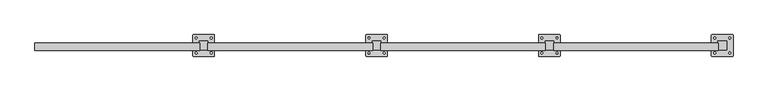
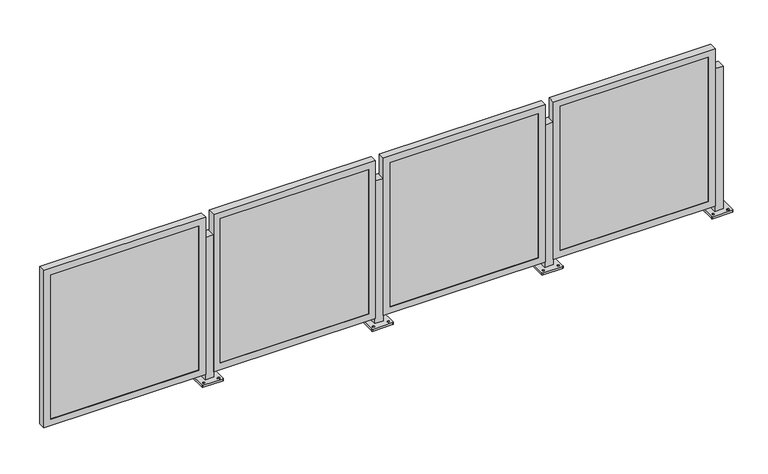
"""IFC4 building model written with IfcOpenShell, lengths in millimetres: railing geometry, Railing - Amico Architectural - Perforated Railing - Crescent."""

from ifc_helpers import new_model, si_unit, frame, origin, place, context, project, spatial, polyline, circle_curve, outline, extrude, faceted_brep, source, transform, mapped, element, save
from ifc_brep_helpers import plane_surface, cylinder_surface, revolved_surface, advanced_brep


def railing_0fd0b3dd(model_context):
    return source(origin(), model_context, "Body", "SolidModel", [
        advanced_brep(
        [(-18839.9348337, -3793.9525624, 914.4), (-18839.9348337, -3844.7525624, 914.4), (-18789.1348337, -3844.7525624, 914.4), (-18789.1348337, -3793.9525624, 914.4), (-18878.0348339, -3879.6775213, 0.0), (-18878.0348339, -3759.0276034, 0.0), (-18874.8598057, -3755.8525752, 0.0), (-18754.2098617, -3755.8525752, 0.0), (-18751.0348335, -3759.0276034, 0.0), (-18751.0348335, -3879.6775213, 0.0), (-18754.2098617, -3882.8525495, 0.0), (-18874.8598057, -3882.8525495, 0.0), (-18858.9848212, -3869.358817, 0.0), (-18858.9848212, -3858.2463046, 0.0), (-18858.9848321, -3780.4588126, 0.0), (-18858.9848321, -3769.346331, 0.0), (-18770.0848203, -3869.3588155, 0.0), (-18770.0848203, -3858.2463048, 0.0), (-18770.0848312, -3780.4588111, 0.0), (-18770.0848312, -3769.3463313, 0.0), (-18839.9348337, -3793.9525624, 12.7), (-18839.9348337, -3844.7525624, 12.7), (-18789.1348337, -3844.7525624, 12.7), (-18789.1348337, -3793.9525624, 12.7), (-18878.0348339, -3879.6775213, 12.7), (-18874.8598057, -3882.8525495, 12.7), (-18754.2098617, -3882.8525495, 12.7), (-18751.0348335, -3879.6775213, 12.7), (-18751.0348335, -3759.0276034, 12.7), (-18754.2098617, -3755.8525752, 12.7), (-18874.8598057, -3755.8525752, 12.7), (-18878.0348339, -3759.0276034, 12.7), (-18858.9848212, -3869.358817, 12.7), (-18858.9848212, -3858.2463046, 12.7), (-18858.9848321, -3780.4588126, 12.7), (-18858.9848321, -3769.346331, 12.7), (-18770.0848203, -3869.3588155, 12.7), (-18770.0848203, -3858.2463048, 12.7), (-18770.0848312, -3780.4588111, 12.7), (-18770.0848312, -3769.3463313, 12.7)],
        [
            (0, 1),
            (1, 2),
            (2, 3),
            (3, 0),
            (4, 5),
            (5, 6, circle_curve(frame((-18874.8598057, -3759.0276034, 0.0), z_axis=(0.0, 0.0, -1.0), x_axis=(0.0, 1.0, 0.0)), 3.1750282)),
            (6, 7),
            (7, 8, circle_curve(frame((-18754.2098617, -3759.0276034, 0.0), z_axis=(0.0, 0.0, -1.0), x_axis=(0.0, 1.0, 0.0)), 3.1750282)),
            (8, 9),
            (9, 10, circle_curve(frame((-18754.2098617, -3879.6775213, 0.0), z_axis=(0.0, 0.0, -1.0), x_axis=(0.0, 1.0, 0.0)), 3.1750282)),
            (10, 11),
            (11, 4, circle_curve(frame((-18874.8598057, -3879.6775213, 0.0), z_axis=(0.0, 0.0, -1.0), x_axis=(0.0, 1.0, 0.0)), 3.1750282)),
            (12, 13, circle_curve(frame((-18858.9848212, -3863.8025608, 0.0), z_axis=(0.0, 0.0, 1.0), x_axis=(0.0, 1.0, 0.0)), 5.5562562)),
            (13, 12, circle_curve(frame((-18858.9848212, -3863.8025608, 0.0), z_axis=(0.0, 0.0, 1.0), x_axis=(0.0, 1.0, 0.0)), 5.5562562)),
            (14, 15, circle_curve(frame((-18858.9848321, -3774.9025718, 0.0), z_axis=(0.0, 0.0, 1.0), x_axis=(0.0, 1.0, 0.0)), 5.5562408)),
            (15, 14, circle_curve(frame((-18858.9848321, -3774.9025718, 0.0), z_axis=(0.0, 0.0, 1.0), x_axis=(0.0, 1.0, 0.0)), 5.5562408)),
            (16, 17, circle_curve(frame((-18770.0848203, -3863.8025601, 0.0), z_axis=(0.0, 0.0, 1.0), x_axis=(0.0, 1.0, 0.0)), 5.5562553)),
            (17, 16, circle_curve(frame((-18770.0848203, -3863.8025601, 0.0), z_axis=(0.0, 0.0, 1.0), x_axis=(0.0, 1.0, 0.0)), 5.5562553)),
            (18, 19, circle_curve(frame((-18770.0848312, -3774.9025712, 0.0), z_axis=(0.0, 0.0, 1.0), x_axis=(0.0, 1.0, 0.0)), 5.5562399)),
            (19, 18, circle_curve(frame((-18770.0848312, -3774.9025712, 0.0), z_axis=(0.0, 0.0, 1.0), x_axis=(0.0, 1.0, 0.0)), 5.5562399)),
            (0, 20),
            (20, 21),
            (21, 1),
            (21, 22),
            (22, 2),
            (22, 23),
            (23, 3),
            (23, 20),
            (24, 25, circle_curve(frame((-18874.8598057, -3879.6775213, 12.7), z_axis=(0.0, 0.0, 1.0), x_axis=(0.0, 1.0, 0.0)), 3.1750282)),
            (25, 26),
            (26, 27, circle_curve(frame((-18754.2098617, -3879.6775213, 12.7), z_axis=(0.0, 0.0, 1.0), x_axis=(0.0, 1.0, 0.0)), 3.1750282)),
            (27, 28),
            (28, 29, circle_curve(frame((-18754.2098617, -3759.0276034, 12.7), z_axis=(0.0, 0.0, 1.0), x_axis=(0.0, 1.0, 0.0)), 3.1750282)),
            (29, 30),
            (30, 31, circle_curve(frame((-18874.8598057, -3759.0276034, 12.7), z_axis=(0.0, 0.0, 1.0), x_axis=(0.0, 1.0, 0.0)), 3.1750282)),
            (31, 24),
            (32, 33, circle_curve(frame((-18858.9848212, -3863.8025608, 12.7), z_axis=(0.0, 0.0, -1.0), x_axis=(0.0, 1.0, 0.0)), 5.5562562)),
            (33, 32, circle_curve(frame((-18858.9848212, -3863.8025608, 12.7), z_axis=(0.0, 0.0, -1.0), x_axis=(0.0, 1.0, 0.0)), 5.5562562)),
            (34, 35, circle_curve(frame((-18858.9848321, -3774.9025718, 12.7), z_axis=(0.0, 0.0, -1.0), x_axis=(0.0, 1.0, 0.0)), 5.5562408)),
            (35, 34, circle_curve(frame((-18858.9848321, -3774.9025718, 12.7), z_axis=(0.0, 0.0, -1.0), x_axis=(0.0, 1.0, 0.0)), 5.5562408)),
            (36, 37, circle_curve(frame((-18770.0848203, -3863.8025601, 12.7), z_axis=(0.0, 0.0, -1.0), x_axis=(0.0, 1.0, 0.0)), 5.5562553)),
            (37, 36, circle_curve(frame((-18770.0848203, -3863.8025601, 12.7), z_axis=(0.0, 0.0, -1.0), x_axis=(0.0, 1.0, 0.0)), 5.5562553)),
            (38, 39, circle_curve(frame((-18770.0848312, -3774.9025712, 12.7), z_axis=(0.0, 0.0, -1.0), x_axis=(0.0, 1.0, 0.0)), 5.5562399)),
            (39, 38, circle_curve(frame((-18770.0848312, -3774.9025712, 12.7), z_axis=(0.0, 0.0, -1.0), x_axis=(0.0, 1.0, 0.0)), 5.5562399)),
            (24, 4),
            (11, 25),
            (10, 26),
            (9, 27),
            (8, 28),
            (7, 29),
            (6, 30),
            (5, 31),
            (32, 12),
            (13, 33),
            (34, 14),
            (15, 35),
            (36, 16),
            (17, 37),
            (38, 18),
            (19, 39),
        ],
        [
            plane_surface(frame((-18839.9348337, -3844.7525624, 914.4), z_axis=(0.0, 0.0, 1.0), x_axis=(0.0, -1.0, 0.0))),
            plane_surface(frame((-18839.9348337, -3844.7525624, 0.0), z_axis=(0.0, 0.0, -1.0), x_axis=(0.0, 1.0, 0.0))),
            plane_surface(frame((-18839.9348337, -3793.9525624, 914.4), z_axis=(-1.0, 0.0, 0.0), x_axis=(0.0, 0.0, -1.0))),
            plane_surface(frame((-18839.9348337, -3844.7525624, 914.4), z_axis=(0.0, -1.0, 0.0), x_axis=(0.0, 0.0, -1.0))),
            plane_surface(frame((-18789.1348337, -3844.7525624, 914.4), z_axis=(1.0, 0.0, 0.0), x_axis=(0.0, 0.0, -1.0))),
            plane_surface(frame((-18789.1348337, -3793.9525624, 914.4), z_axis=(0.0, 1.0, 0.0), x_axis=(0.0, 0.0, -1.0))),
            plane_surface(frame((-18874.8598057, -3876.5024932, 12.7), z_axis=(0.0, 0.0, 1.0), x_axis=(-1.0, 0.0, 0.0))),
            cylinder_surface(frame((-18874.8598057, -3879.6775213, 0.0), z_axis=(0.0, 0.0, 1.0), x_axis=(0.0, 1.0, 0.0)), 3.1750282),
            plane_surface(frame((-18874.8598057, -3882.8525495, 12.7), z_axis=(1.1945386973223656e-12, -1.0, 0.0), x_axis=(0.0, 0.0, -1.0))),
            cylinder_surface(frame((-18754.2098617, -3879.6775213, 0.0), z_axis=(0.0, 0.0, 1.0), x_axis=(0.0, 1.0, 0.0)), 3.1750282),
            plane_surface(frame((-18751.0348335, -3879.6775213, 12.7), z_axis=(1.0, 0.0, 0.0), x_axis=(0.0, 0.0, -1.0))),
            cylinder_surface(frame((-18754.2098617, -3759.0276034, 0.0), z_axis=(0.0, 0.0, 1.0), x_axis=(0.0, 1.0, 0.0)), 3.1750282),
            plane_surface(frame((-18754.2098617, -3755.8525752, 12.7), z_axis=(-1.1946088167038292e-12, 1.0, 0.0), x_axis=(0.0, 0.0, -1.0))),
            cylinder_surface(frame((-18874.8598057, -3759.0276034, 0.0), z_axis=(0.0, 0.0, 1.0), x_axis=(0.0, 1.0, 0.0)), 3.1750282),
            plane_surface(frame((-18878.0348339, -3759.0276034, 12.7), z_axis=(-1.0, 0.0, 0.0), x_axis=(0.0, 0.0, -1.0))),
            revolved_surface(polyline([(-18858.9848212, -3858.2463046, 0.0), (-18858.9848212, -3858.2463046, 12.7)]), (-18858.9848212, -3863.8025608, 0.0), (0.0, 0.0, -1.0)),
            revolved_surface(polyline([(-18858.9848321, -3769.3463309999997, 0.0), (-18858.9848321, -3769.3463309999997, 12.7)]), (-18858.9848321, -3774.9025718, 0.0), (0.0, 0.0, -1.0)),
            revolved_surface(polyline([(-18770.0848203, -3858.2463048, 0.0), (-18770.0848203, -3858.2463048, 12.7)]), (-18770.0848203, -3863.8025601, 0.0), (0.0, 0.0, -1.0)),
            revolved_surface(polyline([(-18770.0848312, -3769.3463312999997, 0.0), (-18770.0848312, -3769.3463312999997, 12.7)]), (-18770.0848312, -3774.9025712, 0.0), (0.0, 0.0, -1.0)),
        ],
        [
            (0, [[1, 2, 3, 4]]),
            (1, [[5, 6, 7, 8, 9, 10, 11, 12], [13, 14], [15, 16], [17, 18], [19, 20]]),
            (2, [[-1, 21, 22, 23]]),
            (3, [[-2, -23, 24, 25]]),
            (4, [[-3, -25, 26, 27]]),
            (5, [[-4, -27, 28, -21]]),
            (6, [[29, 30, 31, 32, 33, 34, 35, 36], [-22, -28, -26, -24], [37, 38], [39, 40], [41, 42], [43, 44]]),
            (7, [[-29, 45, -12, 46]]),
            (8, [[-30, -46, -11, 47]]),
            (9, [[-31, -47, -10, 48]]),
            (10, [[-32, -48, -9, 49]]),
            (11, [[-33, -49, -8, 50]]),
            (12, [[-34, -50, -7, 51]]),
            (13, [[-35, -51, -6, 52]]),
            (14, [[-36, -52, -5, -45]]),
            (15, [[-37, 53, -14, 54]]),
            (15, [[-38, -54, -13, -53]]),
            (16, [[-39, 55, -16, 56]]),
            (16, [[-40, -56, -15, -55]]),
            (17, [[-41, 57, -18, 58]]),
            (17, [[-42, -58, -17, -57]]),
            (18, [[-43, 59, -20, 60]]),
            (18, [[-44, -60, -19, -59]]),
        ],
    ),
        faceted_brep([(-19806.3392871, -3847.4957624, 47.625), (-18837.9642871, -3847.4957624, 47.625), (-18837.9642871, -3847.4957624, 1044.575), (-19806.3392871, -3847.4957624, 1044.575), (-19765.0642871, -3847.4957624, 1003.3), (-18879.2392871, -3847.4957624, 1003.3), (-18879.2392871, -3847.4957624, 88.9), (-19765.0642871, -3847.4957624, 88.9), (-19765.0642871, -3844.7525624, 1003.3), (-19765.0642871, -3844.7525624, 88.9), (-19806.3392871, -3803.6224658, 1044.575), (-19806.3392871, -3803.6224658, 47.625), (-19803.1642871, -3803.6224658, 1041.4), (-19803.1642871, -3844.7525624, 1041.4), (-19803.1642871, -3844.7525624, 50.8), (-19803.1642871, -3803.6224658, 50.8), (-18879.2392871, -3844.7525624, 88.9), (-18837.9642871, -3803.6224658, 47.625), (-18841.1392871, -3844.7525624, 50.8), (-18841.1392871, -3803.6224658, 50.8), (-18879.2392871, -3844.7525624, 1003.3), (-18837.9642871, -3803.6224658, 1044.575), (-18841.1392871, -3844.7525624, 1041.4), (-18841.1392871, -3803.6224658, 1041.4)], [[[0, 1, 2, 3], [4, 5, 6, 7]], [[8, 4, 7, 9]], [[3, 10, 11, 0]], [[12, 13, 14, 15]], [[9, 7, 6, 16]], [[0, 11, 17, 1]], [[15, 14, 18, 19]], [[16, 6, 5, 20]], [[1, 17, 21, 2]], [[19, 18, 22, 23]], [[20, 5, 4, 8]], [[10, 21, 17, 11], [15, 19, 23, 12]], [[2, 21, 10, 3]], [[13, 22, 18, 14], [9, 16, 20, 8]], [[23, 22, 13, 12]]]),
        extrude(outline(polyline([(-19803.1642871, -3835.2275624), (-18841.1392871, -3835.2275624), (-18841.1392871, -3844.7525624), (-19803.1642871, -3844.7525624), (-19803.1642871, -3835.2275624)])), frame((0.0, 0.0, 50.8), z_axis=(0.0, 0.0, 1.0), x_axis=(1.0, 0.0, 0.0)), (0.0, 0.0, 1.0), 990.6),
        advanced_brep(
        [(-19855.9348337, -3793.9525624, 914.4), (-19855.9348337, -3844.7525624, 914.4), (-19805.1348337, -3844.7525624, 914.4), (-19805.1348337, -3793.9525624, 914.4), (-19894.0348339, -3879.6775213, 0.0), (-19894.0348339, -3759.0276034, 0.0), (-19890.8598057, -3755.8525752, 0.0), (-19770.2098617, -3755.8525752, 0.0), (-19767.0348335, -3759.0276034, 0.0), (-19767.0348335, -3879.6775213, 0.0), (-19770.2098617, -3882.8525495, 0.0), (-19890.8598057, -3882.8525495, 0.0), (-19874.9848212, -3869.358817, 0.0), (-19874.9848212, -3858.2463046, 0.0), (-19874.9848321, -3780.4588126, 0.0), (-19874.9848321, -3769.346331, 0.0), (-19786.0848203, -3869.3588155, 0.0), (-19786.0848203, -3858.2463048, 0.0), (-19786.0848312, -3780.4588111, 0.0), (-19786.0848312, -3769.3463313, 0.0), (-19855.9348337, -3793.9525624, 12.7), (-19855.9348337, -3844.7525624, 12.7), (-19805.1348337, -3844.7525624, 12.7), (-19805.1348337, -3793.9525624, 12.7), (-19894.0348339, -3879.6775213, 12.7), (-19890.8598057, -3882.8525495, 12.7), (-19770.2098617, -3882.8525495, 12.7), (-19767.0348335, -3879.6775213, 12.7), (-19767.0348335, -3759.0276034, 12.7), (-19770.2098617, -3755.8525752, 12.7), (-19890.8598057, -3755.8525752, 12.7), (-19894.0348339, -3759.0276034, 12.7), (-19874.9848212, -3869.358817, 12.7), (-19874.9848212, -3858.2463046, 12.7), (-19874.9848321, -3780.4588126, 12.7), (-19874.9848321, -3769.346331, 12.7), (-19786.0848203, -3869.3588155, 12.7), (-19786.0848203, -3858.2463048, 12.7), (-19786.0848312, -3780.4588111, 12.7), (-19786.0848312, -3769.3463313, 12.7)],
        [
            (0, 1),
            (1, 2),
            (2, 3),
            (3, 0),
            (4, 5),
            (5, 6, circle_curve(frame((-19890.8598057, -3759.0276034, 0.0), z_axis=(0.0, 0.0, -1.0), x_axis=(0.0, 1.0, 0.0)), 3.1750282)),
            (6, 7),
            (7, 8, circle_curve(frame((-19770.2098617, -3759.0276034, 0.0), z_axis=(0.0, 0.0, -1.0), x_axis=(0.0, 1.0, 0.0)), 3.1750282)),
            (8, 9),
            (9, 10, circle_curve(frame((-19770.2098617, -3879.6775213, 0.0), z_axis=(0.0, 0.0, -1.0), x_axis=(0.0, 1.0, 0.0)), 3.1750282)),
            (10, 11),
            (11, 4, circle_curve(frame((-19890.8598057, -3879.6775213, 0.0), z_axis=(0.0, 0.0, -1.0), x_axis=(0.0, 1.0, 0.0)), 3.1750282)),
            (12, 13, circle_curve(frame((-19874.9848212, -3863.8025608, 0.0), z_axis=(0.0, 0.0, 1.0), x_axis=(0.0, 1.0, 0.0)), 5.5562562)),
            (13, 12, circle_curve(frame((-19874.9848212, -3863.8025608, 0.0), z_axis=(0.0, 0.0, 1.0), x_axis=(0.0, 1.0, 0.0)), 5.5562562)),
            (14, 15, circle_curve(frame((-19874.9848321, -3774.9025718, 0.0), z_axis=(0.0, 0.0, 1.0), x_axis=(0.0, 1.0, 0.0)), 5.5562408)),
            (15, 14, circle_curve(frame((-19874.9848321, -3774.9025718, 0.0), z_axis=(0.0, 0.0, 1.0), x_axis=(0.0, 1.0, 0.0)), 5.5562408)),
            (16, 17, circle_curve(frame((-19786.0848203, -3863.8025601, 0.0), z_axis=(0.0, 0.0, 1.0), x_axis=(0.0, 1.0, 0.0)), 5.5562553)),
            (17, 16, circle_curve(frame((-19786.0848203, -3863.8025601, 0.0), z_axis=(0.0, 0.0, 1.0), x_axis=(0.0, 1.0, 0.0)), 5.5562553)),
            (18, 19, circle_curve(frame((-19786.0848312, -3774.9025712, 0.0), z_axis=(0.0, 0.0, 1.0), x_axis=(0.0, 1.0, 0.0)), 5.5562399)),
            (19, 18, circle_curve(frame((-19786.0848312, -3774.9025712, 0.0), z_axis=(0.0, 0.0, 1.0), x_axis=(0.0, 1.0, 0.0)), 5.5562399)),
            (0, 20),
            (20, 21),
            (21, 1),
            (21, 22),
            (22, 2),
            (22, 23),
            (23, 3),
            (23, 20),
            (24, 25, circle_curve(frame((-19890.8598057, -3879.6775213, 12.7), z_axis=(0.0, 0.0, 1.0), x_axis=(0.0, 1.0, 0.0)), 3.1750282)),
            (25, 26),
            (26, 27, circle_curve(frame((-19770.2098617, -3879.6775213, 12.7), z_axis=(0.0, 0.0, 1.0), x_axis=(0.0, 1.0, 0.0)), 3.1750282)),
            (27, 28),
            (28, 29, circle_curve(frame((-19770.2098617, -3759.0276034, 12.7), z_axis=(0.0, 0.0, 1.0), x_axis=(0.0, 1.0, 0.0)), 3.1750282)),
            (29, 30),
            (30, 31, circle_curve(frame((-19890.8598057, -3759.0276034, 12.7), z_axis=(0.0, 0.0, 1.0), x_axis=(0.0, 1.0, 0.0)), 3.1750282)),
            (31, 24),
            (32, 33, circle_curve(frame((-19874.9848212, -3863.8025608, 12.7), z_axis=(0.0, 0.0, -1.0), x_axis=(0.0, 1.0, 0.0)), 5.5562562)),
            (33, 32, circle_curve(frame((-19874.9848212, -3863.8025608, 12.7), z_axis=(0.0, 0.0, -1.0), x_axis=(0.0, 1.0, 0.0)), 5.5562562)),
            (34, 35, circle_curve(frame((-19874.9848321, -3774.9025718, 12.7), z_axis=(0.0, 0.0, -1.0), x_axis=(0.0, 1.0, 0.0)), 5.5562408)),
            (35, 34, circle_curve(frame((-19874.9848321, -3774.9025718, 12.7), z_axis=(0.0, 0.0, -1.0), x_axis=(0.0, 1.0, 0.0)), 5.5562408)),
            (36, 37, circle_curve(frame((-19786.0848203, -3863.8025601, 12.7), z_axis=(0.0, 0.0, -1.0), x_axis=(0.0, 1.0, 0.0)), 5.5562553)),
            (37, 36, circle_curve(frame((-19786.0848203, -3863.8025601, 12.7), z_axis=(0.0, 0.0, -1.0), x_axis=(0.0, 1.0, 0.0)), 5.5562553)),
            (38, 39, circle_curve(frame((-19786.0848312, -3774.9025712, 12.7), z_axis=(0.0, 0.0, -1.0), x_axis=(0.0, 1.0, 0.0)), 5.5562399)),
            (39, 38, circle_curve(frame((-19786.0848312, -3774.9025712, 12.7), z_axis=(0.0, 0.0, -1.0), x_axis=(0.0, 1.0, 0.0)), 5.5562399)),
            (24, 4),
            (11, 25),
            (10, 26),
            (9, 27),
            (8, 28),
            (7, 29),
            (6, 30),
            (5, 31),
            (32, 12),
            (13, 33),
            (34, 14),
            (15, 35),
            (36, 16),
            (17, 37),
            (38, 18),
            (19, 39),
        ],
        [
            plane_surface(frame((-19855.9348337, -3844.7525624, 914.4), z_axis=(0.0, 0.0, 1.0), x_axis=(0.0, -1.0, 0.0))),
            plane_surface(frame((-19855.9348337, -3844.7525624, 0.0), z_axis=(0.0, 0.0, -1.0), x_axis=(0.0, 1.0, 0.0))),
            plane_surface(frame((-19855.9348337, -3793.9525624, 914.4), z_axis=(-1.0, 0.0, 0.0), x_axis=(0.0, 0.0, -1.0))),
            plane_surface(frame((-19855.9348337, -3844.7525624, 914.4), z_axis=(0.0, -1.0, 0.0), x_axis=(0.0, 0.0, -1.0))),
            plane_surface(frame((-19805.1348337, -3844.7525624, 914.4), z_axis=(1.0, 0.0, 0.0), x_axis=(0.0, 0.0, -1.0))),
            plane_surface(frame((-19805.1348337, -3793.9525624, 914.4), z_axis=(0.0, 1.0, 0.0), x_axis=(0.0, 0.0, -1.0))),
            plane_surface(frame((-19890.8598057, -3876.5024932, 12.7), z_axis=(0.0, 0.0, 1.0), x_axis=(-1.0, 0.0, 0.0))),
            cylinder_surface(frame((-19890.8598057, -3879.6775213, 0.0), z_axis=(0.0, 0.0, 1.0), x_axis=(0.0, 1.0, 0.0)), 3.1750282),
            plane_surface(frame((-19890.8598057, -3882.8525495, 12.7), z_axis=(1.1945386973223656e-12, -1.0, 0.0), x_axis=(0.0, 0.0, -1.0))),
            cylinder_surface(frame((-19770.2098617, -3879.6775213, 0.0), z_axis=(0.0, 0.0, 1.0), x_axis=(0.0, 1.0, 0.0)), 3.1750282),
            plane_surface(frame((-19767.0348335, -3879.6775213, 12.7), z_axis=(1.0, 0.0, 0.0), x_axis=(0.0, 0.0, -1.0))),
            cylinder_surface(frame((-19770.2098617, -3759.0276034, 0.0), z_axis=(0.0, 0.0, 1.0), x_axis=(0.0, 1.0, 0.0)), 3.1750282),
            plane_surface(frame((-19770.2098617, -3755.8525752, 12.7), z_axis=(-1.1946088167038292e-12, 1.0, 0.0), x_axis=(0.0, 0.0, -1.0))),
            cylinder_surface(frame((-19890.8598057, -3759.0276034, 0.0), z_axis=(0.0, 0.0, 1.0), x_axis=(0.0, 1.0, 0.0)), 3.1750282),
            plane_surface(frame((-19894.0348339, -3759.0276034, 12.7), z_axis=(-1.0, 0.0, 0.0), x_axis=(0.0, 0.0, -1.0))),
            revolved_surface(polyline([(-19874.9848212, -3858.2463046, 0.0), (-19874.9848212, -3858.2463046, 12.7)]), (-19874.9848212, -3863.8025608, 0.0), (0.0, 0.0, -1.0)),
            revolved_surface(polyline([(-19874.9848321, -3769.3463309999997, 0.0), (-19874.9848321, -3769.3463309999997, 12.7)]), (-19874.9848321, -3774.9025718, 0.0), (0.0, 0.0, -1.0)),
            revolved_surface(polyline([(-19786.0848203, -3858.2463048, 0.0), (-19786.0848203, -3858.2463048, 12.7)]), (-19786.0848203, -3863.8025601, 0.0), (0.0, 0.0, -1.0)),
            revolved_surface(polyline([(-19786.0848312, -3769.3463312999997, 0.0), (-19786.0848312, -3769.3463312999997, 12.7)]), (-19786.0848312, -3774.9025712, 0.0), (0.0, 0.0, -1.0)),
        ],
        [
            (0, [[1, 2, 3, 4]]),
            (1, [[5, 6, 7, 8, 9, 10, 11, 12], [13, 14], [15, 16], [17, 18], [19, 20]]),
            (2, [[-1, 21, 22, 23]]),
            (3, [[-2, -23, 24, 25]]),
            (4, [[-3, -25, 26, 27]]),
            (5, [[-4, -27, 28, -21]]),
            (6, [[29, 30, 31, 32, 33, 34, 35, 36], [-22, -28, -26, -24], [37, 38], [39, 40], [41, 42], [43, 44]]),
            (7, [[-29, 45, -12, 46]]),
            (8, [[-30, -46, -11, 47]]),
            (9, [[-31, -47, -10, 48]]),
            (10, [[-32, -48, -9, 49]]),
            (11, [[-33, -49, -8, 50]]),
            (12, [[-34, -50, -7, 51]]),
            (13, [[-35, -51, -6, 52]]),
            (14, [[-36, -52, -5, -45]]),
            (15, [[-37, 53, -14, 54]]),
            (15, [[-38, -54, -13, -53]]),
            (16, [[-39, 55, -16, 56]]),
            (16, [[-40, -56, -15, -55]]),
            (17, [[-41, 57, -18, 58]]),
            (17, [[-42, -58, -17, -57]]),
            (18, [[-43, 59, -20, 60]]),
            (18, [[-44, -60, -19, -59]]),
        ],
    ),
        faceted_brep([(-20822.3392871, -3847.4957624, 47.625), (-19853.9642871, -3847.4957624, 47.625), (-19853.9642871, -3847.4957624, 1044.575), (-20822.3392871, -3847.4957624, 1044.575), (-20781.0642871, -3847.4957624, 1003.3), (-19895.2392871, -3847.4957624, 1003.3), (-19895.2392871, -3847.4957624, 88.9), (-20781.0642871, -3847.4957624, 88.9), (-20781.0642871, -3844.7525624, 1003.3), (-20781.0642871, -3844.7525624, 88.9), (-20822.3392871, -3803.6224658, 1044.575), (-20822.3392871, -3803.6224658, 47.625), (-20819.1642871, -3803.6224658, 1041.4), (-20819.1642871, -3844.7525624, 1041.4), (-20819.1642871, -3844.7525624, 50.8), (-20819.1642871, -3803.6224658, 50.8), (-19895.2392871, -3844.7525624, 88.9), (-19853.9642871, -3803.6224658, 47.625), (-19857.1392871, -3844.7525624, 50.8), (-19857.1392871, -3803.6224658, 50.8), (-19895.2392871, -3844.7525624, 1003.3), (-19853.9642871, -3803.6224658, 1044.575), (-19857.1392871, -3844.7525624, 1041.4), (-19857.1392871, -3803.6224658, 1041.4)], [[[0, 1, 2, 3], [4, 5, 6, 7]], [[8, 4, 7, 9]], [[3, 10, 11, 0]], [[12, 13, 14, 15]], [[9, 7, 6, 16]], [[0, 11, 17, 1]], [[15, 14, 18, 19]], [[16, 6, 5, 20]], [[1, 17, 21, 2]], [[19, 18, 22, 23]], [[20, 5, 4, 8]], [[10, 21, 17, 11], [15, 19, 23, 12]], [[2, 21, 10, 3]], [[13, 22, 18, 14], [9, 16, 20, 8]], [[23, 22, 13, 12]]]),
        extrude(outline(polyline([(-20819.1642871, -3835.2275624), (-19857.1392871, -3835.2275624), (-19857.1392871, -3844.7525624), (-20819.1642871, -3844.7525624), (-20819.1642871, -3835.2275624)])), frame((0.0, 0.0, 50.8), z_axis=(0.0, 0.0, 1.0), x_axis=(1.0, 0.0, 0.0)), (0.0, 0.0, 1.0), 990.6),
        advanced_brep(
        [(-20871.9348337, -3793.9525624, 914.4), (-20871.9348337, -3844.7525624, 914.4), (-20821.1348337, -3844.7525624, 914.4), (-20821.1348337, -3793.9525624, 914.4), (-20910.0348339, -3879.6775213, 0.0), (-20910.0348339, -3759.0276034, 0.0), (-20906.8598057, -3755.8525752, 0.0), (-20786.2098617, -3755.8525752, 0.0), (-20783.0348335, -3759.0276034, 0.0), (-20783.0348335, -3879.6775213, 0.0), (-20786.2098617, -3882.8525495, 0.0), (-20906.8598057, -3882.8525495, 0.0), (-20890.9848212, -3869.358817, 0.0), (-20890.9848212, -3858.2463046, 0.0), (-20890.9848321, -3780.4588126, 0.0), (-20890.9848321, -3769.346331, 0.0), (-20802.0848203, -3869.3588155, 0.0), (-20802.0848203, -3858.2463048, 0.0), (-20802.0848312, -3780.4588111, 0.0), (-20802.0848312, -3769.3463313, 0.0), (-20871.9348337, -3793.9525624, 12.7), (-20871.9348337, -3844.7525624, 12.7), (-20821.1348337, -3844.7525624, 12.7), (-20821.1348337, -3793.9525624, 12.7), (-20910.0348339, -3879.6775213, 12.7), (-20906.8598057, -3882.8525495, 12.7), (-20786.2098617, -3882.8525495, 12.7), (-20783.0348335, -3879.6775213, 12.7), (-20783.0348335, -3759.0276034, 12.7), (-20786.2098617, -3755.8525752, 12.7), (-20906.8598057, -3755.8525752, 12.7), (-20910.0348339, -3759.0276034, 12.7), (-20890.9848212, -3869.358817, 12.7), (-20890.9848212, -3858.2463046, 12.7), (-20890.9848321, -3780.4588126, 12.7), (-20890.9848321, -3769.346331, 12.7), (-20802.0848203, -3869.3588155, 12.7), (-20802.0848203, -3858.2463048, 12.7), (-20802.0848312, -3780.4588111, 12.7), (-20802.0848312, -3769.3463313, 12.7)],
        [
            (0, 1),
            (1, 2),
            (2, 3),
            (3, 0),
            (4, 5),
            (5, 6, circle_curve(frame((-20906.8598057, -3759.0276034, 0.0), z_axis=(0.0, 0.0, -1.0), x_axis=(0.0, 1.0, 0.0)), 3.1750282)),
            (6, 7),
            (7, 8, circle_curve(frame((-20786.2098617, -3759.0276034, 0.0), z_axis=(0.0, 0.0, -1.0), x_axis=(0.0, 1.0, 0.0)), 3.1750282)),
            (8, 9),
            (9, 10, circle_curve(frame((-20786.2098617, -3879.6775213, 0.0), z_axis=(0.0, 0.0, -1.0), x_axis=(0.0, 1.0, 0.0)), 3.1750282)),
            (10, 11),
            (11, 4, circle_curve(frame((-20906.8598057, -3879.6775213, 0.0), z_axis=(0.0, 0.0, -1.0), x_axis=(0.0, 1.0, 0.0)), 3.1750282)),
            (12, 13, circle_curve(frame((-20890.9848212, -3863.8025608, 0.0), z_axis=(0.0, 0.0, 1.0), x_axis=(0.0, 1.0, 0.0)), 5.5562562)),
            (13, 12, circle_curve(frame((-20890.9848212, -3863.8025608, 0.0), z_axis=(0.0, 0.0, 1.0), x_axis=(0.0, 1.0, 0.0)), 5.5562562)),
            (14, 15, circle_curve(frame((-20890.9848321, -3774.9025718, 0.0), z_axis=(0.0, 0.0, 1.0), x_axis=(0.0, 1.0, 0.0)), 5.5562408)),
            (15, 14, circle_curve(frame((-20890.9848321, -3774.9025718, 0.0), z_axis=(0.0, 0.0, 1.0), x_axis=(0.0, 1.0, 0.0)), 5.5562408)),
            (16, 17, circle_curve(frame((-20802.0848203, -3863.8025601, 0.0), z_axis=(0.0, 0.0, 1.0), x_axis=(0.0, 1.0, 0.0)), 5.5562553)),
            (17, 16, circle_curve(frame((-20802.0848203, -3863.8025601, 0.0), z_axis=(0.0, 0.0, 1.0), x_axis=(0.0, 1.0, 0.0)), 5.5562553)),
            (18, 19, circle_curve(frame((-20802.0848312, -3774.9025712, 0.0), z_axis=(0.0, 0.0, 1.0), x_axis=(0.0, 1.0, 0.0)), 5.5562399)),
            (19, 18, circle_curve(frame((-20802.0848312, -3774.9025712, 0.0), z_axis=(0.0, 0.0, 1.0), x_axis=(0.0, 1.0, 0.0)), 5.5562399)),
            (0, 20),
            (20, 21),
            (21, 1),
            (21, 22),
            (22, 2),
            (22, 23),
            (23, 3),
            (23, 20),
            (24, 25, circle_curve(frame((-20906.8598057, -3879.6775213, 12.7), z_axis=(0.0, 0.0, 1.0), x_axis=(0.0, 1.0, 0.0)), 3.1750282)),
            (25, 26),
            (26, 27, circle_curve(frame((-20786.2098617, -3879.6775213, 12.7), z_axis=(0.0, 0.0, 1.0), x_axis=(0.0, 1.0, 0.0)), 3.1750282)),
            (27, 28),
            (28, 29, circle_curve(frame((-20786.2098617, -3759.0276034, 12.7), z_axis=(0.0, 0.0, 1.0), x_axis=(0.0, 1.0, 0.0)), 3.1750282)),
            (29, 30),
            (30, 31, circle_curve(frame((-20906.8598057, -3759.0276034, 12.7), z_axis=(0.0, 0.0, 1.0), x_axis=(0.0, 1.0, 0.0)), 3.1750282)),
            (31, 24),
            (32, 33, circle_curve(frame((-20890.9848212, -3863.8025608, 12.7), z_axis=(0.0, 0.0, -1.0), x_axis=(0.0, 1.0, 0.0)), 5.5562562)),
            (33, 32, circle_curve(frame((-20890.9848212, -3863.8025608, 12.7), z_axis=(0.0, 0.0, -1.0), x_axis=(0.0, 1.0, 0.0)), 5.5562562)),
            (34, 35, circle_curve(frame((-20890.9848321, -3774.9025718, 12.7), z_axis=(0.0, 0.0, -1.0), x_axis=(0.0, 1.0, 0.0)), 5.5562408)),
            (35, 34, circle_curve(frame((-20890.9848321, -3774.9025718, 12.7), z_axis=(0.0, 0.0, -1.0), x_axis=(0.0, 1.0, 0.0)), 5.5562408)),
            (36, 37, circle_curve(frame((-20802.0848203, -3863.8025601, 12.7), z_axis=(0.0, 0.0, -1.0), x_axis=(0.0, 1.0, 0.0)), 5.5562553)),
            (37, 36, circle_curve(frame((-20802.0848203, -3863.8025601, 12.7), z_axis=(0.0, 0.0, -1.0), x_axis=(0.0, 1.0, 0.0)), 5.5562553)),
            (38, 39, circle_curve(frame((-20802.0848312, -3774.9025712, 12.7), z_axis=(0.0, 0.0, -1.0), x_axis=(0.0, 1.0, 0.0)), 5.5562399)),
            (39, 38, circle_curve(frame((-20802.0848312, -3774.9025712, 12.7), z_axis=(0.0, 0.0, -1.0), x_axis=(0.0, 1.0, 0.0)), 5.5562399)),
            (24, 4),
            (11, 25),
            (10, 26),
            (9, 27),
            (8, 28),
            (7, 29),
            (6, 30),
            (5, 31),
            (32, 12),
            (13, 33),
            (34, 14),
            (15, 35),
            (36, 16),
            (17, 37),
            (38, 18),
            (19, 39),
        ],
        [
            plane_surface(frame((-20871.9348337, -3844.7525624, 914.4), z_axis=(0.0, 0.0, 1.0), x_axis=(0.0, -1.0, 0.0))),
            plane_surface(frame((-20871.9348337, -3844.7525624, 0.0), z_axis=(0.0, 0.0, -1.0), x_axis=(0.0, 1.0, 0.0))),
            plane_surface(frame((-20871.9348337, -3793.9525624, 914.4), z_axis=(-1.0, 0.0, 0.0), x_axis=(0.0, 0.0, -1.0))),
            plane_surface(frame((-20871.9348337, -3844.7525624, 914.4), z_axis=(0.0, -1.0, 0.0), x_axis=(0.0, 0.0, -1.0))),
            plane_surface(frame((-20821.1348337, -3844.7525624, 914.4), z_axis=(1.0, 0.0, 0.0), x_axis=(0.0, 0.0, -1.0))),
            plane_surface(frame((-20821.1348337, -3793.9525624, 914.4), z_axis=(0.0, 1.0, 0.0), x_axis=(0.0, 0.0, -1.0))),
            plane_surface(frame((-20906.8598057, -3876.5024932, 12.7), z_axis=(0.0, 0.0, 1.0), x_axis=(-1.0, 0.0, 0.0))),
            cylinder_surface(frame((-20906.8598057, -3879.6775213, 0.0), z_axis=(0.0, 0.0, 1.0), x_axis=(0.0, 1.0, 0.0)), 3.1750282),
            plane_surface(frame((-20906.8598057, -3882.8525495, 12.7), z_axis=(1.1945386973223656e-12, -1.0, 0.0), x_axis=(0.0, 0.0, -1.0))),
            cylinder_surface(frame((-20786.2098617, -3879.6775213, 0.0), z_axis=(0.0, 0.0, 1.0), x_axis=(0.0, 1.0, 0.0)), 3.1750282),
            plane_surface(frame((-20783.0348335, -3879.6775213, 12.7), z_axis=(1.0, 0.0, 0.0), x_axis=(0.0, 0.0, -1.0))),
            cylinder_surface(frame((-20786.2098617, -3759.0276034, 0.0), z_axis=(0.0, 0.0, 1.0), x_axis=(0.0, 1.0, 0.0)), 3.1750282),
            plane_surface(frame((-20786.2098617, -3755.8525752, 12.7), z_axis=(-1.1946088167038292e-12, 1.0, 0.0), x_axis=(0.0, 0.0, -1.0))),
            cylinder_surface(frame((-20906.8598057, -3759.0276034, 0.0), z_axis=(0.0, 0.0, 1.0), x_axis=(0.0, 1.0, 0.0)), 3.1750282),
            plane_surface(frame((-20910.0348339, -3759.0276034, 12.7), z_axis=(-1.0, 0.0, 0.0), x_axis=(0.0, 0.0, -1.0))),
            revolved_surface(polyline([(-20890.9848212, -3858.2463046, 0.0), (-20890.9848212, -3858.2463046, 12.7)]), (-20890.9848212, -3863.8025608, 0.0), (0.0, 0.0, -1.0)),
            revolved_surface(polyline([(-20890.9848321, -3769.3463309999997, 0.0), (-20890.9848321, -3769.3463309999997, 12.7)]), (-20890.9848321, -3774.9025718, 0.0), (0.0, 0.0, -1.0)),
            revolved_surface(polyline([(-20802.0848203, -3858.2463048, 0.0), (-20802.0848203, -3858.2463048, 12.7)]), (-20802.0848203, -3863.8025601, 0.0), (0.0, 0.0, -1.0)),
            revolved_surface(polyline([(-20802.0848312, -3769.3463312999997, 0.0), (-20802.0848312, -3769.3463312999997, 12.7)]), (-20802.0848312, -3774.9025712, 0.0), (0.0, 0.0, -1.0)),
        ],
        [
            (0, [[1, 2, 3, 4]]),
            (1, [[5, 6, 7, 8, 9, 10, 11, 12], [13, 14], [15, 16], [17, 18], [19, 20]]),
            (2, [[-1, 21, 22, 23]]),
            (3, [[-2, -23, 24, 25]]),
            (4, [[-3, -25, 26, 27]]),
            (5, [[-4, -27, 28, -21]]),
            (6, [[29, 30, 31, 32, 33, 34, 35, 36], [-22, -28, -26, -24], [37, 38], [39, 40], [41, 42], [43, 44]]),
            (7, [[-29, 45, -12, 46]]),
            (8, [[-30, -46, -11, 47]]),
            (9, [[-31, -47, -10, 48]]),
            (10, [[-32, -48, -9, 49]]),
            (11, [[-33, -49, -8, 50]]),
            (12, [[-34, -50, -7, 51]]),
            (13, [[-35, -51, -6, 52]]),
            (14, [[-36, -52, -5, -45]]),
            (15, [[-37, 53, -14, 54]]),
            (15, [[-38, -54, -13, -53]]),
            (16, [[-39, 55, -16, 56]]),
            (16, [[-40, -56, -15, -55]]),
            (17, [[-41, 57, -18, 58]]),
            (17, [[-42, -58, -17, -57]]),
            (18, [[-43, 59, -20, 60]]),
            (18, [[-44, -60, -19, -59]]),
        ],
    ),
        faceted_brep([(-21838.3392871, -3847.4957624, 47.625), (-20869.9642871, -3847.4957624, 47.625), (-20869.9642871, -3847.4957624, 1044.575), (-21838.3392871, -3847.4957624, 1044.575), (-21797.0642871, -3847.4957624, 1003.3), (-20911.2392871, -3847.4957624, 1003.3), (-20911.2392871, -3847.4957624, 88.9), (-21797.0642871, -3847.4957624, 88.9), (-21797.0642871, -3844.7525624, 1003.3), (-21797.0642871, -3844.7525624, 88.9), (-21838.3392871, -3803.6224658, 1044.575), (-21838.3392871, -3803.6224658, 47.625), (-21835.1642871, -3803.6224658, 1041.4), (-21835.1642871, -3844.7525624, 1041.4), (-21835.1642871, -3844.7525624, 50.8), (-21835.1642871, -3803.6224658, 50.8), (-20911.2392871, -3844.7525624, 88.9), (-20869.9642871, -3803.6224658, 47.625), (-20873.1392871, -3844.7525624, 50.8), (-20873.1392871, -3803.6224658, 50.8), (-20911.2392871, -3844.7525624, 1003.3), (-20869.9642871, -3803.6224658, 1044.575), (-20873.1392871, -3844.7525624, 1041.4), (-20873.1392871, -3803.6224658, 1041.4)], [[[0, 1, 2, 3], [4, 5, 6, 7]], [[8, 4, 7, 9]], [[3, 10, 11, 0]], [[12, 13, 14, 15]], [[9, 7, 6, 16]], [[0, 11, 17, 1]], [[15, 14, 18, 19]], [[16, 6, 5, 20]], [[1, 17, 21, 2]], [[19, 18, 22, 23]], [[20, 5, 4, 8]], [[10, 21, 17, 11], [15, 19, 23, 12]], [[2, 21, 10, 3]], [[13, 22, 18, 14], [9, 16, 20, 8]], [[23, 22, 13, 12]]]),
        extrude(outline(polyline([(-21835.1642871, -3835.2275624), (-20873.1392871, -3835.2275624), (-20873.1392871, -3844.7525624), (-21835.1642871, -3844.7525624), (-21835.1642871, -3835.2275624)])), frame((0.0, 0.0, 50.8), z_axis=(0.0, 0.0, 1.0), x_axis=(1.0, 0.0, 0.0)), (0.0, 0.0, 1.0), 990.6),
        advanced_brep(
        [(-21887.9348337, -3793.9525624, 914.4), (-21887.9348337, -3844.7525624, 914.4), (-21837.1348337, -3844.7525624, 914.4), (-21837.1348337, -3793.9525624, 914.4), (-21926.0348339, -3879.6775213, 0.0), (-21926.0348339, -3759.0276034, 0.0), (-21922.8598057, -3755.8525752, 0.0), (-21802.2098617, -3755.8525752, 0.0), (-21799.0348335, -3759.0276034, 0.0), (-21799.0348335, -3879.6775213, 0.0), (-21802.2098617, -3882.8525495, 0.0), (-21922.8598057, -3882.8525495, 0.0), (-21906.9848212, -3869.358817, 0.0), (-21906.9848212, -3858.2463046, 0.0), (-21906.9848321, -3780.4588126, 0.0), (-21906.9848321, -3769.346331, 0.0), (-21818.0848203, -3869.3588155, 0.0), (-21818.0848203, -3858.2463048, 0.0), (-21818.0848312, -3780.4588111, 0.0), (-21818.0848312, -3769.3463313, 0.0), (-21887.9348337, -3793.9525624, 12.7), (-21887.9348337, -3844.7525624, 12.7), (-21837.1348337, -3844.7525624, 12.7), (-21837.1348337, -3793.9525624, 12.7), (-21926.0348339, -3879.6775213, 12.7), (-21922.8598057, -3882.8525495, 12.7), (-21802.2098617, -3882.8525495, 12.7), (-21799.0348335, -3879.6775213, 12.7), (-21799.0348335, -3759.0276034, 12.7), (-21802.2098617, -3755.8525752, 12.7), (-21922.8598057, -3755.8525752, 12.7), (-21926.0348339, -3759.0276034, 12.7), (-21906.9848212, -3869.358817, 12.7), (-21906.9848212, -3858.2463046, 12.7), (-21906.9848321, -3780.4588126, 12.7), (-21906.9848321, -3769.346331, 12.7), (-21818.0848203, -3869.3588155, 12.7), (-21818.0848203, -3858.2463048, 12.7), (-21818.0848312, -3780.4588111, 12.7), (-21818.0848312, -3769.3463313, 12.7)],
        [
            (0, 1),
            (1, 2),
            (2, 3),
            (3, 0),
            (4, 5),
            (5, 6, circle_curve(frame((-21922.8598057, -3759.0276034, 0.0), z_axis=(0.0, 0.0, -1.0), x_axis=(0.0, 1.0, 0.0)), 3.1750282)),
            (6, 7),
            (7, 8, circle_curve(frame((-21802.2098617, -3759.0276034, 0.0), z_axis=(0.0, 0.0, -1.0), x_axis=(0.0, 1.0, 0.0)), 3.1750282)),
            (8, 9),
            (9, 10, circle_curve(frame((-21802.2098617, -3879.6775213, 0.0), z_axis=(0.0, 0.0, -1.0), x_axis=(0.0, 1.0, 0.0)), 3.1750282)),
            (10, 11),
            (11, 4, circle_curve(frame((-21922.8598057, -3879.6775213, 0.0), z_axis=(0.0, 0.0, -1.0), x_axis=(0.0, 1.0, 0.0)), 3.1750282)),
            (12, 13, circle_curve(frame((-21906.9848212, -3863.8025608, 0.0), z_axis=(0.0, 0.0, 1.0), x_axis=(0.0, 1.0, 0.0)), 5.5562562)),
            (13, 12, circle_curve(frame((-21906.9848212, -3863.8025608, 0.0), z_axis=(0.0, 0.0, 1.0), x_axis=(0.0, 1.0, 0.0)), 5.5562562)),
            (14, 15, circle_curve(frame((-21906.9848321, -3774.9025718, 0.0), z_axis=(0.0, 0.0, 1.0), x_axis=(0.0, 1.0, 0.0)), 5.5562408)),
            (15, 14, circle_curve(frame((-21906.9848321, -3774.9025718, 0.0), z_axis=(0.0, 0.0, 1.0), x_axis=(0.0, 1.0, 0.0)), 5.5562408)),
            (16, 17, circle_curve(frame((-21818.0848203, -3863.8025601, 0.0), z_axis=(0.0, 0.0, 1.0), x_axis=(0.0, 1.0, 0.0)), 5.5562553)),
            (17, 16, circle_curve(frame((-21818.0848203, -3863.8025601, 0.0), z_axis=(0.0, 0.0, 1.0), x_axis=(0.0, 1.0, 0.0)), 5.5562553)),
            (18, 19, circle_curve(frame((-21818.0848312, -3774.9025712, 0.0), z_axis=(0.0, 0.0, 1.0), x_axis=(0.0, 1.0, 0.0)), 5.5562399)),
            (19, 18, circle_curve(frame((-21818.0848312, -3774.9025712, 0.0), z_axis=(0.0, 0.0, 1.0), x_axis=(0.0, 1.0, 0.0)), 5.5562399)),
            (0, 20),
            (20, 21),
            (21, 1),
            (21, 22),
            (22, 2),
            (22, 23),
            (23, 3),
            (23, 20),
            (24, 25, circle_curve(frame((-21922.8598057, -3879.6775213, 12.7), z_axis=(0.0, 0.0, 1.0), x_axis=(0.0, 1.0, 0.0)), 3.1750282)),
            (25, 26),
            (26, 27, circle_curve(frame((-21802.2098617, -3879.6775213, 12.7), z_axis=(0.0, 0.0, 1.0), x_axis=(0.0, 1.0, 0.0)), 3.1750282)),
            (27, 28),
            (28, 29, circle_curve(frame((-21802.2098617, -3759.0276034, 12.7), z_axis=(0.0, 0.0, 1.0), x_axis=(0.0, 1.0, 0.0)), 3.1750282)),
            (29, 30),
            (30, 31, circle_curve(frame((-21922.8598057, -3759.0276034, 12.7), z_axis=(0.0, 0.0, 1.0), x_axis=(0.0, 1.0, 0.0)), 3.1750282)),
            (31, 24),
            (32, 33, circle_curve(frame((-21906.9848212, -3863.8025608, 12.7), z_axis=(0.0, 0.0, -1.0), x_axis=(0.0, 1.0, 0.0)), 5.5562562)),
            (33, 32, circle_curve(frame((-21906.9848212, -3863.8025608, 12.7), z_axis=(0.0, 0.0, -1.0), x_axis=(0.0, 1.0, 0.0)), 5.5562562)),
            (34, 35, circle_curve(frame((-21906.9848321, -3774.9025718, 12.7), z_axis=(0.0, 0.0, -1.0), x_axis=(0.0, 1.0, 0.0)), 5.5562408)),
            (35, 34, circle_curve(frame((-21906.9848321, -3774.9025718, 12.7), z_axis=(0.0, 0.0, -1.0), x_axis=(0.0, 1.0, 0.0)), 5.5562408)),
            (36, 37, circle_curve(frame((-21818.0848203, -3863.8025601, 12.7), z_axis=(0.0, 0.0, -1.0), x_axis=(0.0, 1.0, 0.0)), 5.5562553)),
            (37, 36, circle_curve(frame((-21818.0848203, -3863.8025601, 12.7), z_axis=(0.0, 0.0, -1.0), x_axis=(0.0, 1.0, 0.0)), 5.5562553)),
            (38, 39, circle_curve(frame((-21818.0848312, -3774.9025712, 12.7), z_axis=(0.0, 0.0, -1.0), x_axis=(0.0, 1.0, 0.0)), 5.5562399)),
            (39, 38, circle_curve(frame((-21818.0848312, -3774.9025712, 12.7), z_axis=(0.0, 0.0, -1.0), x_axis=(0.0, 1.0, 0.0)), 5.5562399)),
            (24, 4),
            (11, 25),
            (10, 26),
            (9, 27),
            (8, 28),
            (7, 29),
            (6, 30),
            (5, 31),
            (32, 12),
            (13, 33),
            (34, 14),
            (15, 35),
            (36, 16),
            (17, 37),
            (38, 18),
            (19, 39),
        ],
        [
            plane_surface(frame((-21887.9348337, -3844.7525624, 914.4), z_axis=(0.0, 0.0, 1.0), x_axis=(0.0, -1.0, 0.0))),
            plane_surface(frame((-21887.9348337, -3844.7525624, 0.0), z_axis=(0.0, 0.0, -1.0), x_axis=(0.0, 1.0, 0.0))),
            plane_surface(frame((-21887.9348337, -3793.9525624, 914.4), z_axis=(-1.0, 0.0, 0.0), x_axis=(0.0, 0.0, -1.0))),
            plane_surface(frame((-21887.9348337, -3844.7525624, 914.4), z_axis=(0.0, -1.0, 0.0), x_axis=(0.0, 0.0, -1.0))),
            plane_surface(frame((-21837.1348337, -3844.7525624, 914.4), z_axis=(1.0, 0.0, 0.0), x_axis=(0.0, 0.0, -1.0))),
            plane_surface(frame((-21837.1348337, -3793.9525624, 914.4), z_axis=(0.0, 1.0, 0.0), x_axis=(0.0, 0.0, -1.0))),
            plane_surface(frame((-21922.8598057, -3876.5024932, 12.7), z_axis=(0.0, 0.0, 1.0), x_axis=(-1.0, 0.0, 0.0))),
            cylinder_surface(frame((-21922.8598057, -3879.6775213, 0.0), z_axis=(0.0, 0.0, 1.0), x_axis=(0.0, 1.0, 0.0)), 3.1750282),
            plane_surface(frame((-21922.8598057, -3882.8525495, 12.7), z_axis=(1.1945386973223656e-12, -1.0, 0.0), x_axis=(0.0, 0.0, -1.0))),
            cylinder_surface(frame((-21802.2098617, -3879.6775213, 0.0), z_axis=(0.0, 0.0, 1.0), x_axis=(0.0, 1.0, 0.0)), 3.1750282),
            plane_surface(frame((-21799.0348335, -3879.6775213, 12.7), z_axis=(1.0, 0.0, 0.0), x_axis=(0.0, 0.0, -1.0))),
            cylinder_surface(frame((-21802.2098617, -3759.0276034, 0.0), z_axis=(0.0, 0.0, 1.0), x_axis=(0.0, 1.0, 0.0)), 3.1750282),
            plane_surface(frame((-21802.2098617, -3755.8525752, 12.7), z_axis=(-1.1946088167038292e-12, 1.0, 0.0), x_axis=(0.0, 0.0, -1.0))),
            cylinder_surface(frame((-21922.8598057, -3759.0276034, 0.0), z_axis=(0.0, 0.0, 1.0), x_axis=(0.0, 1.0, 0.0)), 3.1750282),
            plane_surface(frame((-21926.0348339, -3759.0276034, 12.7), z_axis=(-1.0, 0.0, 0.0), x_axis=(0.0, 0.0, -1.0))),
            revolved_surface(polyline([(-21906.9848212, -3858.2463046, 0.0), (-21906.9848212, -3858.2463046, 12.7)]), (-21906.9848212, -3863.8025608, 0.0), (0.0, 0.0, -1.0)),
            revolved_surface(polyline([(-21906.9848321, -3769.3463309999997, 0.0), (-21906.9848321, -3769.3463309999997, 12.7)]), (-21906.9848321, -3774.9025718, 0.0), (0.0, 0.0, -1.0)),
            revolved_surface(polyline([(-21818.0848203, -3858.2463048, 0.0), (-21818.0848203, -3858.2463048, 12.7)]), (-21818.0848203, -3863.8025601, 0.0), (0.0, 0.0, -1.0)),
            revolved_surface(polyline([(-21818.0848312, -3769.3463312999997, 0.0), (-21818.0848312, -3769.3463312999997, 12.7)]), (-21818.0848312, -3774.9025712, 0.0), (0.0, 0.0, -1.0)),
        ],
        [
            (0, [[1, 2, 3, 4]]),
            (1, [[5, 6, 7, 8, 9, 10, 11, 12], [13, 14], [15, 16], [17, 18], [19, 20]]),
            (2, [[-1, 21, 22, 23]]),
            (3, [[-2, -23, 24, 25]]),
            (4, [[-3, -25, 26, 27]]),
            (5, [[-4, -27, 28, -21]]),
            (6, [[29, 30, 31, 32, 33, 34, 35, 36], [-22, -28, -26, -24], [37, 38], [39, 40], [41, 42], [43, 44]]),
            (7, [[-29, 45, -12, 46]]),
            (8, [[-30, -46, -11, 47]]),
            (9, [[-31, -47, -10, 48]]),
            (10, [[-32, -48, -9, 49]]),
            (11, [[-33, -49, -8, 50]]),
            (12, [[-34, -50, -7, 51]]),
            (13, [[-35, -51, -6, 52]]),
            (14, [[-36, -52, -5, -45]]),
            (15, [[-37, 53, -14, 54]]),
            (15, [[-38, -54, -13, -53]]),
            (16, [[-39, 55, -16, 56]]),
            (16, [[-40, -56, -15, -55]]),
            (17, [[-41, 57, -18, 58]]),
            (17, [[-42, -58, -17, -57]]),
            (18, [[-43, 59, -20, 60]]),
            (18, [[-44, -60, -19, -59]]),
        ],
    ),
        faceted_brep([(-22854.3392871, -3847.4957624, 47.625), (-21885.9642871, -3847.4957624, 47.625), (-21885.9642871, -3847.4957624, 1044.575), (-22854.3392871, -3847.4957624, 1044.575), (-22813.0642871, -3847.4957624, 1003.3), (-21927.2392871, -3847.4957624, 1003.3), (-21927.2392871, -3847.4957624, 88.9), (-22813.0642871, -3847.4957624, 88.9), (-22813.0642871, -3844.7525624, 1003.3), (-22813.0642871, -3844.7525624, 88.9), (-22854.3392871, -3803.6224658, 1044.575), (-22854.3392871, -3803.6224658, 47.625), (-22851.1642871, -3803.6224658, 1041.4), (-22851.1642871, -3844.7525624, 1041.4), (-22851.1642871, -3844.7525624, 50.8), (-22851.1642871, -3803.6224658, 50.8), (-21927.2392871, -3844.7525624, 88.9), (-21885.9642871, -3803.6224658, 47.625), (-21889.1392871, -3844.7525624, 50.8), (-21889.1392871, -3803.6224658, 50.8), (-21927.2392871, -3844.7525624, 1003.3), (-21885.9642871, -3803.6224658, 1044.575), (-21889.1392871, -3844.7525624, 1041.4), (-21889.1392871, -3803.6224658, 1041.4)], [[[0, 1, 2, 3], [4, 5, 6, 7]], [[8, 4, 7, 9]], [[3, 10, 11, 0]], [[12, 13, 14, 15]], [[9, 7, 6, 16]], [[0, 11, 17, 1]], [[15, 14, 18, 19]], [[16, 6, 5, 20]], [[1, 17, 21, 2]], [[19, 18, 22, 23]], [[20, 5, 4, 8]], [[10, 21, 17, 11], [15, 19, 23, 12]], [[2, 21, 10, 3]], [[13, 22, 18, 14], [9, 16, 20, 8]], [[23, 22, 13, 12]]]),
        extrude(outline(polyline([(-22851.1642871, -3835.2275624), (-21889.1392871, -3835.2275624), (-21889.1392871, -3844.7525624), (-22851.1642871, -3844.7525624), (-22851.1642871, -3835.2275624)])), frame((0.0, 0.0, 50.8), z_axis=(0.0, 0.0, 1.0), x_axis=(1.0, 0.0, 0.0)), (0.0, 0.0, 1.0), 990.6),
    ])


if __name__ == "__main__":
    model = new_model("IFC4")
    model_context = context("Model", 3, world=origin())
    ifc_project = project(units=[si_unit("LENGTHUNIT", "METRE", prefix="MILLI")], contexts=[model_context])
    site = spatial("IfcSite", under=ifc_project)
    building = spatial("IfcBuilding", under=site)
    placement = place(None, origin())
    railing_shape = railing_0fd0b3dd(model_context)
    element("IfcRailing", 1, ObjectType="Railing - Amico Architectural - Perforated Railing - Crescent", at=placement, inside=building, context=model_context, shape_type="MappedRepresentation", body=[
        mapped(railing_shape, transform((0.0, 0.0, 0.0), x_axis=(1.0, 0.0, 0.0), y_axis=(0.0, 1.0, 0.0), z_axis=(0.0, 0.0, 1.0))),
    ])
    save(model, "model.ifc")
